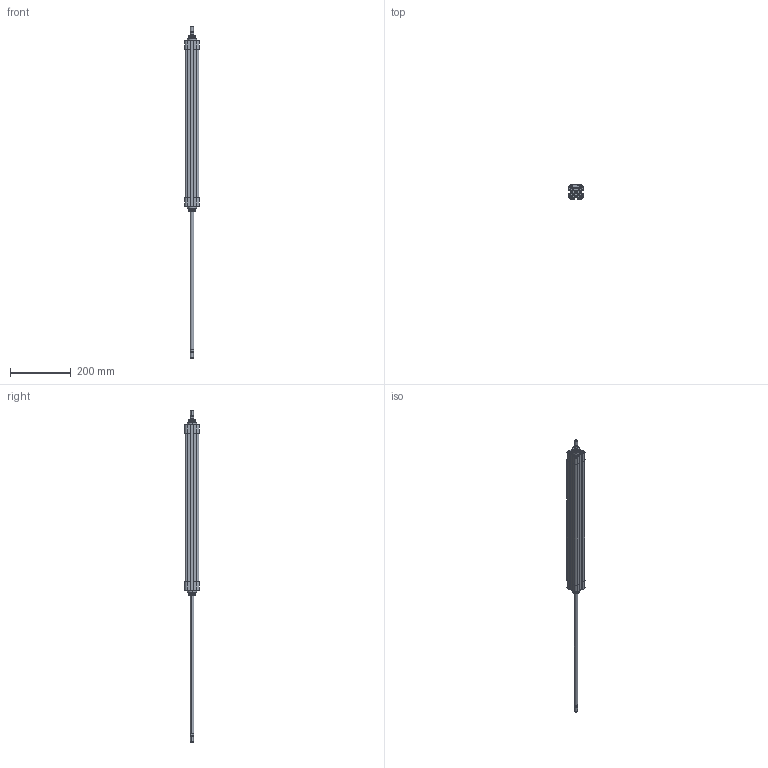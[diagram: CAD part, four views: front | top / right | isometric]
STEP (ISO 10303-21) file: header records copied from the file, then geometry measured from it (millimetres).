
FILE_DESCRIPTION((''),'2;1');
FILE_NAME('F:\Lib-3d\1380\CIL\1380_32_0450_02.stp','2004-01-07T16:00:52',('maffial1'),(''),'Autodesk Inventor 8','Autodesk Inventor 8','');
FILE_SCHEMA(('AUTOMOTIVE_DESIGN { 1 0 10303 214 1 1 1 1 }'));
Length unit declared in the file: millimetre
Products named in the file (3): 1380_32_0450_02; CPP04_32_450; CPP03_32_450
Assembly tree (2 placements, depth 2):
  1380_32_0450_02
    CPP04_32_450
    CPP03_32_450
Bounding box: 46 x 46 x 1090 mm (x, y, z)
Volume: 1084439.2 mm3; surface area: 195250.1 mm2
Topology: 2 solids, 2 shells, 236 faces, 564 edges, 356 vertices
Faces by surface type: plane 80, cylinder 66, bspline 62, cone 24, torus 4
Entity records: 7513 total; most frequent: CARTESIAN_POINT 2031, DIRECTION 1154, ORIENTED_EDGE 1096, EDGE_CURVE 548, AXIS2_PLACEMENT_3D 427, VERTEX_POINT 356, VECTOR 300, LINE 300
